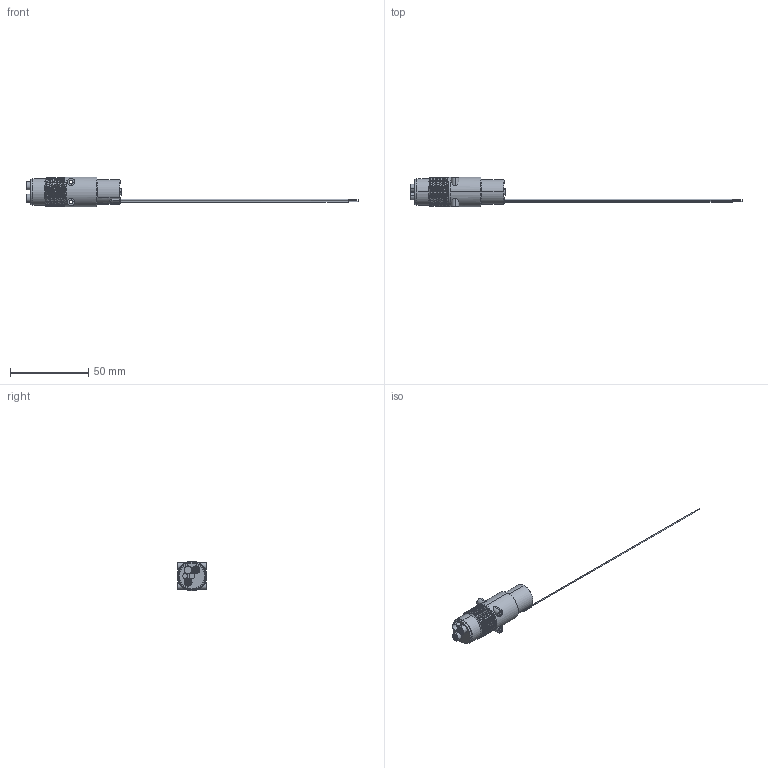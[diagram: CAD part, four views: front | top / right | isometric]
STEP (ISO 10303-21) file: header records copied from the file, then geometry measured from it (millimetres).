
FILE_DESCRIPTION (( 'STEP AP214' ), '1' );
FILE_NAME ('LFYA2418232H C1.step', '2024-11-06T16:47:00', ( '' ), ( '' ), 'SwSTEP 2.0', 'SolidWorks 2024', '' );
FILE_SCHEMA (( 'AUTOMOTIVE_DESIGN' ));
Length unit declared in the file: inch
Products named in the file (1): LFYA2418232H C1
Bounding box: 212.47 x 19.05 x 19.05 mm (x, y, z)
Volume: 14436.3 mm3; surface area: 5899.4 mm2
Topology: 1 solids, 1 shells, 345 faces, 866 edges, 541 vertices
Faces by surface type: cylinder 183, plane 62, torus 46, bspline 36, cone 18
Entity records: 23979 total; most frequent: CARTESIAN_POINT 16119, ORIENTED_EDGE 1724, DIRECTION 1568, EDGE_CURVE 862, AXIS2_PLACEMENT_3D 641, VERTEX_POINT 541, EDGE_LOOP 371, ADVANCED_FACE 345
